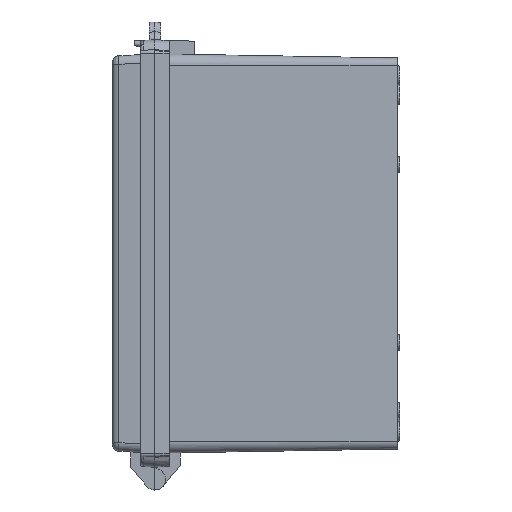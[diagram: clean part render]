
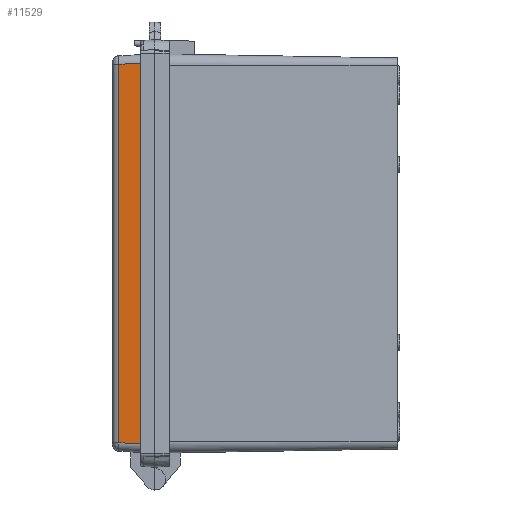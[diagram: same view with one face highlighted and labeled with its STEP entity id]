
A CAD part, left-side view. The second image highlights one B-rep face of the part: STEP entity #11529.
In plain terms, the highlighted planar face has unit normal (-0.999, 0.052, 0).
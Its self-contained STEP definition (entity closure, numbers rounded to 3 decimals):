
#622 = CARTESIAN_POINT ( 'NONE',  ( -189.6, 10., 139.6 ) ) ;
#1305 = DIRECTION ( 'NONE',  ( -0.999, 0.052, 0. ) ) ;
#4100 = VERTEX_POINT ( 'NONE', #13341 ) ;
#4643 = VECTOR ( 'NONE', #19267, 1000. ) ;
#5038 = DIRECTION ( 'NONE',  ( -0.052, -0.997, -0.052 ) ) ;
#5101 = ORIENTED_EDGE ( 'NONE', *, *, #27495, .F. ) ;
#5836 = EDGE_LOOP ( 'NONE', ( #19473, #21772, #24047, #5101 ) ) ;
#6395 = VECTOR ( 'NONE', #28231, 1000. ) ;
#8073 = LINE ( 'NONE', #17342, #8397 ) ;
#8397 = VECTOR ( 'NONE', #5038, 1000. ) ;
#9033 = CARTESIAN_POINT ( 'NONE',  ( -189.6, 10., -133.608 ) ) ;
#9499 = VERTEX_POINT ( 'NONE', #18027 ) ;
#10326 = VECTOR ( 'NONE', #26882, 1000. ) ;
#10610 = DIRECTION ( 'NONE',  ( -0.052, -0.999, 0. ) ) ;
#10930 = EDGE_CURVE ( 'NONE', #4100, #25895, #19846, .T. ) ;
#11435 = CARTESIAN_POINT ( 'NONE',  ( -189.6, 10., 139.6 ) ) ;
#11529 = ADVANCED_FACE ( 'NONE', ( #12892 ), #24631, .T. ) ;
#12892 = FACE_OUTER_BOUND ( 'NONE', #5836, .T. ) ;
#13341 = CARTESIAN_POINT ( 'NONE',  ( -189.6, 10., 133.608 ) ) ;
#14203 = CARTESIAN_POINT ( 'NONE',  ( -188.8, 25.262, 132.808 ) ) ;
#17342 = CARTESIAN_POINT ( 'NONE',  ( -188.854, 24.24, -132.862 ) ) ;
#18007 = EDGE_CURVE ( 'NONE', #25895, #9499, #23120, .T. ) ;
#18027 = CARTESIAN_POINT ( 'NONE',  ( -188.8, 25.262, -132.808 ) ) ;
#18044 = AXIS2_PLACEMENT_3D ( 'NONE', #622, #1305, #10610 ) ;
#18537 = CARTESIAN_POINT ( 'NONE',  ( -188.8, 25.262, 139.6 ) ) ;
#19267 = DIRECTION ( 'NONE',  ( 0., 0., -1. ) ) ;
#19473 = ORIENTED_EDGE ( 'NONE', *, *, #10930, .T. ) ;
#19846 = LINE ( 'NONE', #24726, #10326 ) ;
#21772 = ORIENTED_EDGE ( 'NONE', *, *, #18007, .T. ) ;
#22870 = LINE ( 'NONE', #11435, #6395 ) ;
#23120 = LINE ( 'NONE', #18537, #4643 ) ;
#24047 = ORIENTED_EDGE ( 'NONE', *, *, #27648, .T. ) ;
#24631 = PLANE ( 'NONE',  #18044 ) ;
#24726 = CARTESIAN_POINT ( 'NONE',  ( -189.616, 9.688, 133.625 ) ) ;
#25895 = VERTEX_POINT ( 'NONE', #14203 ) ;
#25902 = VERTEX_POINT ( 'NONE', #9033 ) ;
#26882 = DIRECTION ( 'NONE',  ( 0.052, 0.997, -0.052 ) ) ;
#27495 = EDGE_CURVE ( 'NONE', #4100, #25902, #22870, .T. ) ;
#27648 = EDGE_CURVE ( 'NONE', #9499, #25902, #8073, .T. ) ;
#28231 = DIRECTION ( 'NONE',  ( 0., 0., -1. ) ) ;
